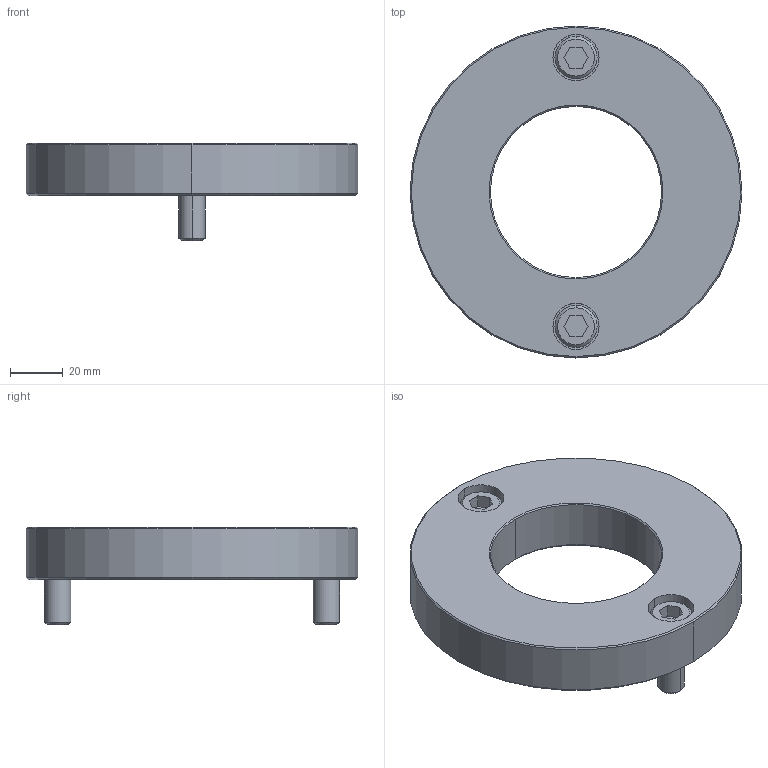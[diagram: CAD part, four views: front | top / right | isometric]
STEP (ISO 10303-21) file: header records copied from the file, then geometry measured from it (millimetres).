
FILE_DESCRIPTION((''),'2;1');
FILE_NAME('','2010-08-30T17:30:08+09:00',('misumi'),(''),'M/STEP i/f 1R2-14','CADmeister v5.1','');
FILE_SCHEMA(('AUTOMOTIVE_DESIGN'));
Length unit declared in the file: millimetre
Products named in the file (1): KEB60-20-Y
Bounding box: 126 x 126 x 37 mm (x, y, z)
Volume: 182661.7 mm3; surface area: 34823.8 mm2
Topology: 3 solids, 3 shells, 60 faces, 128 edges, 80 vertices
Faces by surface type: plane 24, cylinder 20, cone 16
Entity records: 1742 total; most frequent: DIRECTION 306, CARTESIAN_POINT 269, ORIENTED_EDGE 256, EDGE_CURVE 128, AXIS2_PLACEMENT_3D 117, VERTEX_POINT 80, LINE 72, VECTOR 72
